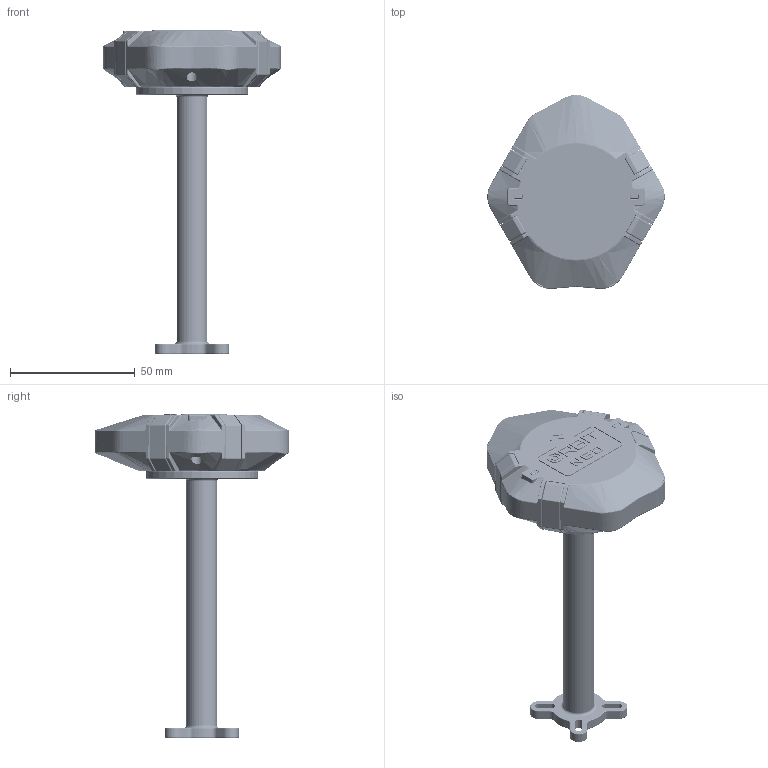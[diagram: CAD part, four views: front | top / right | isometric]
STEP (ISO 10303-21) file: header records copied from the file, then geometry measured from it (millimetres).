
FILE_DESCRIPTION (( 'STEP AP214' ), '1' );
FILE_NAME ('ORBIT-NEO-HEX-V5-ASSEMBLY-R2.STEP', '2025-07-23T19:15:30', ( '' ), ( '' ), 'SwSTEP 2.0', 'SolidWorks 2024', '' );
FILE_SCHEMA (( 'AUTOMOTIVE_DESIGN' ));
Length unit declared in the file: inch
Products named in the file (9): ORBIT-NEO-HEX-V5-ASSEMBLY-R2; ORBIT-NEO-HEX-V5-PCB; SIDE LED COVER-FRONT-ORBIT-NEO-HEX-V5-R2; SIDE LED COVER-BACK-ORBIT-NEO-HEX-V5-R2; M2 Thread Insert; TOP LED COVER-ORBIT-NEO-HEX-V5-R2; POST-ORBIT-NEO-HEX-V5-R2; TOP-ORBIT-NEO-HEX-V5-R2; BOTTOM-ORBIT-NEO-HEX-V5-R2
Assembly tree (17 placements, depth 2):
  ORBIT-NEO-HEX-V5-ASSEMBLY-R2
    POST-ORBIT-NEO-HEX-V5-R2
    BOTTOM-ORBIT-NEO-HEX-V5-R2
    TOP LED COVER-ORBIT-NEO-HEX-V5-R2  x2
    TOP-ORBIT-NEO-HEX-V5-R2
    SIDE LED COVER-BACK-ORBIT-NEO-HEX-V5-R2  x2
    SIDE LED COVER-FRONT-ORBIT-NEO-HEX-V5-R2  x2
    ORBIT-NEO-HEX-V5-PCB
    M2 Thread Insert  x7
Bounding box: 71.14 x 77.77 x 129.9 mm (x, y, z)
Volume: 41033.7 mm3; surface area: 55707.9 mm2
Topology: 340 solids, 340 shells, 9816 faces, 24802 edges, 15801 vertices
Faces by surface type: plane 5519, cylinder 2886, bspline 829, torus 283, sphere 208, cone 91
Entity records: 264252 total; most frequent: CARTESIAN_POINT 67095, ORIENTED_EDGE 40738, DIRECTION 38481, EDGE_CURVE 20369, LINE 13789, VECTOR 13789, VERTEX_POINT 12991, AXIS2_PLACEMENT_3D 12346
